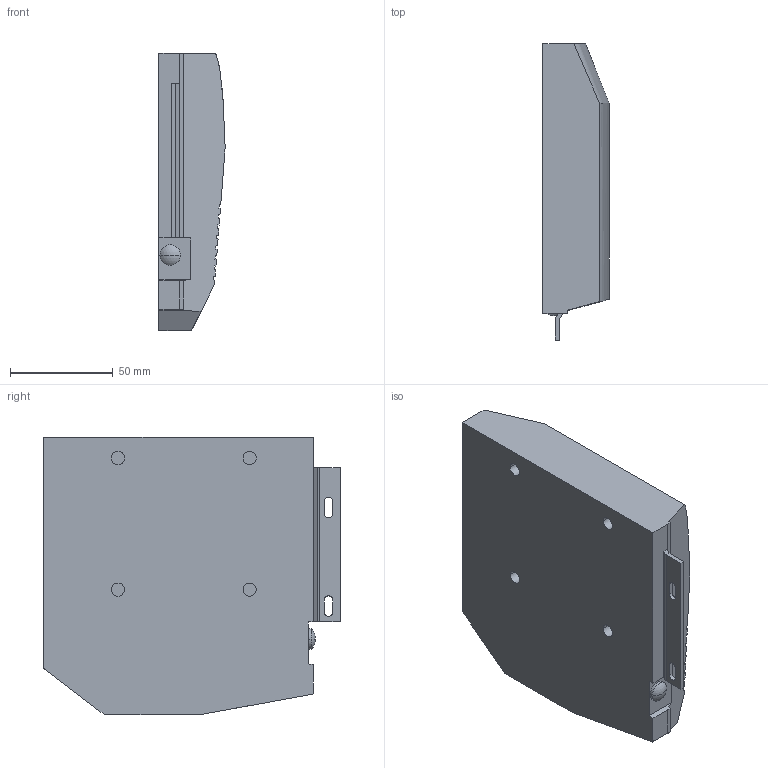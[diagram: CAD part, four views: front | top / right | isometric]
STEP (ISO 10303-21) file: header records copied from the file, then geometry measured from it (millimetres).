
FILE_DESCRIPTION (( 'STEP AP203' ), '1' );
FILE_NAME ('Kinvaro_T-65_links_D2672523325~0.step', '2012-05-04T06:46:28', ( 'admin' ), ( 'Hewlett-Packard Company' ), 'SwSTEP 2.0', 'SolidWorks 2011', '' );
FILE_SCHEMA (( 'CONFIG_CONTROL_DESIGN' ));
Length unit declared in the file: millimetre
Products named in the file (1): Kinvaro_T-65_links_D2672523325~0
Bounding box: 32.21 x 144.04 x 134.7 mm (x, y, z)
Volume: 463256.2 mm3; surface area: 51213.2 mm2
Topology: 1 solids, 1 shells, 109 faces, 299 edges, 197 vertices
Faces by surface type: plane 87, cylinder 18, sphere 2, bspline 2
Entity records: 3687 total; most frequent: CARTESIAN_POINT 823, ORIENTED_EDGE 598, DIRECTION 541, EDGE_CURVE 299, VECTOR 255, LINE 255, VERTEX_POINT 197, AXIS2_PLACEMENT_3D 143
